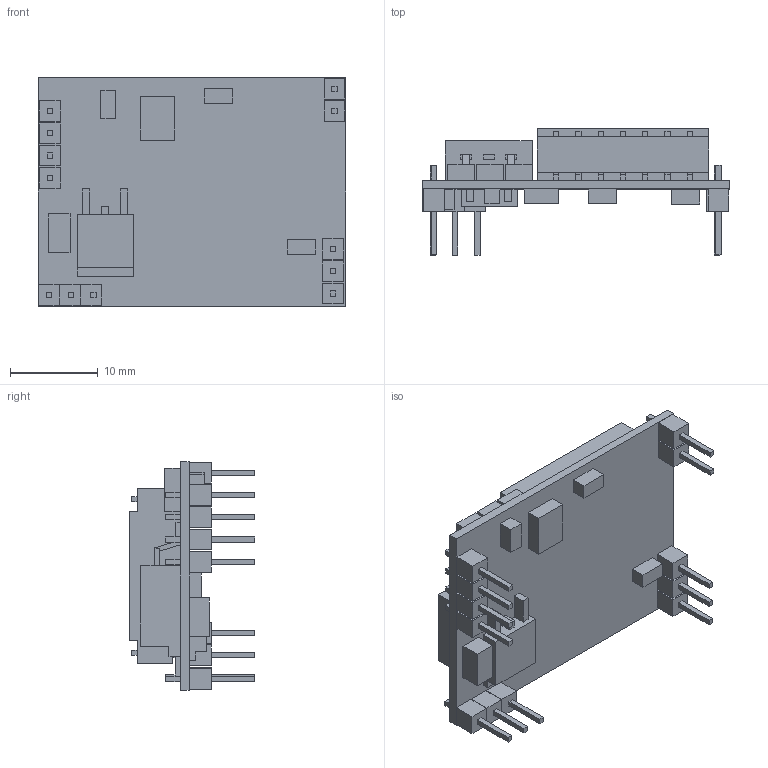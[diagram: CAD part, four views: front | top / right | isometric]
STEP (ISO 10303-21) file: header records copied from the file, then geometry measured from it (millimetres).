
FILE_DESCRIPTION (( 'STEP AP203' ), '1' );
FILE_NAME ('SSP-F060WE.STEP', '2016-07-23T17:40:09', ( 'gregory' ), ( '' ), 'SwSTEP 2.0', 'SolidWorks 2011', '' );
FILE_SCHEMA (( 'CONFIG_CONTROL_DESIGN' ));
Length unit declared in the file: millimetre
Products named in the file (1): SSP-F060WE
Bounding box: 35 x 14.35 x 26 mm (x, y, z)
Volume: 3905.9 mm3; surface area: 3630.6 mm2
Topology: 1 solids, 1 shells, 451 faces, 1158 edges, 772 vertices
Faces by surface type: plane 449, cylinder 2
Entity records: 13537 total; most frequent: CARTESIAN_POINT 2382, ORIENTED_EDGE 2316, DIRECTION 2066, EDGE_CURVE 1158, VECTOR 1154, LINE 1154, VERTEX_POINT 772, EDGE_LOOP 546
